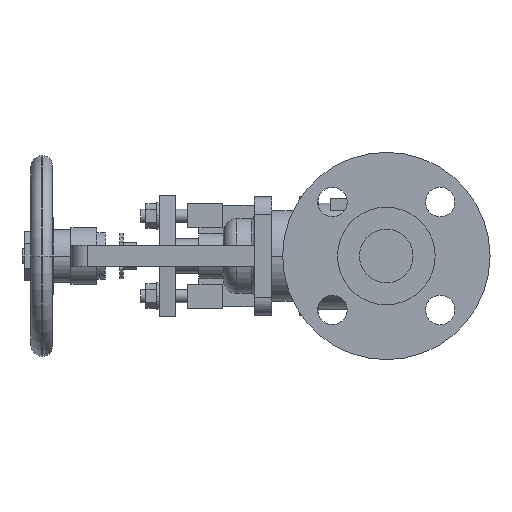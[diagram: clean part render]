
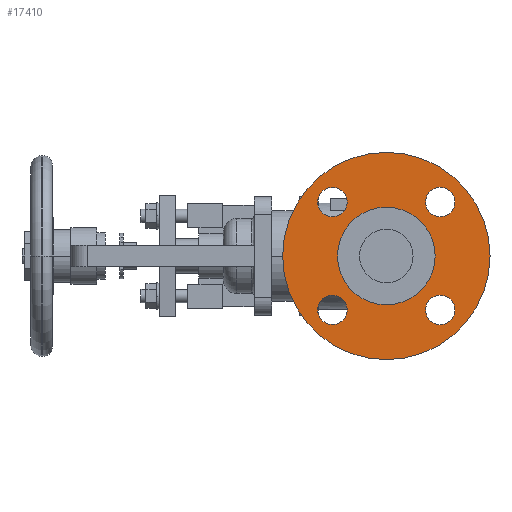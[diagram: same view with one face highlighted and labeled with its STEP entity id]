
A CAD part, left-side view. The second image highlights one B-rep face of the part: STEP entity #17410.
In plain terms, the highlighted planar face has unit normal (-1, 0, 0).
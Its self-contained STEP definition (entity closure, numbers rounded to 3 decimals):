
#4500=CARTESIAN_POINT('',(1.6,0.,-77.5));
#4510=VERTEX_POINT('',#4500);
#4540=CARTESIAN_POINT('',(1.6,0.,0.));
#4550=DIRECTION('',(1.,0.,0.));
#4560=DIRECTION('',(0.,0.,-1.));
#4570=AXIS2_PLACEMENT_3D('',#4540,#4550,#4560);
#4580=CIRCLE('',#4570,77.5);
#4590=CARTESIAN_POINT('',(1.6,0.,77.5));
#4600=VERTEX_POINT('',#4590);
#4610=EDGE_CURVE('',#4600,#4510,#4580,.T.);
#4990=CARTESIAN_POINT('',(1.6,40.305,
-29.305));
#5000=VERTEX_POINT('',#4990);
#5030=CARTESIAN_POINT('',(1.6,40.305,
-40.305));
#5040=DIRECTION('',(-1.,0.,0.));
#5050=DIRECTION('',(0.,0.,-1.));
#5060=AXIS2_PLACEMENT_3D('',#5030,#5040,#5050);
#5070=CIRCLE('',#5060,11.);
#5080=CARTESIAN_POINT('',(1.6,40.305,
-51.305));
#5090=VERTEX_POINT('',#5080);
#5100=EDGE_CURVE('',#5090,#5000,#5070,.T.);
#5480=CARTESIAN_POINT('',(1.6,-40.305,
-51.305));
#5490=VERTEX_POINT('',#5480);
#5650=CARTESIAN_POINT('',(1.6,-40.305,
-29.305));
#5660=VERTEX_POINT('',#5650);
#5690=CARTESIAN_POINT('',(1.6,-40.305,
-40.305));
#5700=DIRECTION('',(-1.,0.,0.));
#5710=DIRECTION('',(0.,0.,-1.));
#5720=AXIS2_PLACEMENT_3D('',#5690,#5700,#5710);
#5730=CIRCLE('',#5720,11.);
#5740=EDGE_CURVE('',#5490,#5660,#5730,.T.);
#5970=CARTESIAN_POINT('',(1.6,40.305,
29.305));
#5980=VERTEX_POINT('',#5970);
#6010=CARTESIAN_POINT('',(1.6,40.305,
40.305));
#6020=DIRECTION('',(-1.,0.,0.));
#6030=DIRECTION('',(0.,0.,-1.));
#6040=AXIS2_PLACEMENT_3D('',#6010,#6020,#6030);
#6050=CIRCLE('',#6040,11.);
#6060=CARTESIAN_POINT('',(1.6,40.305,
51.305));
#6070=VERTEX_POINT('',#6060);
#6080=EDGE_CURVE('',#6070,#5980,#6050,.T.);
#6460=CARTESIAN_POINT('',(1.6,-40.305,
29.305));
#6470=VERTEX_POINT('',#6460);
#6500=CARTESIAN_POINT('',(1.6,-40.305,
40.305));
#6510=DIRECTION('',(-1.,0.,0.));
#6520=DIRECTION('',(0.,0.,-1.));
#6530=AXIS2_PLACEMENT_3D('',#6500,#6510,#6520);
#6540=CIRCLE('',#6530,11.);
#6550=CARTESIAN_POINT('',(1.6,-40.305,
51.305));
#6560=VERTEX_POINT('',#6550);
#6570=EDGE_CURVE('',#6560,#6470,#6540,.T.);
#6950=CARTESIAN_POINT('',(1.6,36.5,0.));
#6960=VERTEX_POINT('',#6950);
#6990=CARTESIAN_POINT('',(1.6,0.,0.));
#7000=DIRECTION('',(-1.,0.,0.));
#7010=DIRECTION('',(0.,1.,0.));
#7020=AXIS2_PLACEMENT_3D('',#6990,#7000,#7010);
#7030=CIRCLE('',#7020,36.5);
#7040=CARTESIAN_POINT('',(1.6,-36.5,0.));
#7050=VERTEX_POINT('',#7040);
#7060=EDGE_CURVE('',#7050,#6960,#7030,.T.);
#17060=CARTESIAN_POINT('',(1.6,57.,0.));
#17070=DIRECTION('',(1.,0.,0.));
#17080=DIRECTION('',(0.,-1.,0.));
#17090=AXIS2_PLACEMENT_3D('',#17060,#17070,#17080);
#17100=PLANE('',#17090);
#17110=EDGE_CURVE('',#6960,#7050,#7030,.T.);
#17120=ORIENTED_EDGE('',*,*,#17110,.F.);
#17130=ORIENTED_EDGE('',*,*,#7060,.F.);
#17140=EDGE_LOOP('',(#17130,#17120));
#17150=FACE_BOUND('',#17140,.T.);
#17160=EDGE_CURVE('',#4510,#4600,#4580,.T.);
#17170=ORIENTED_EDGE('',*,*,#17160,.F.);
#17180=ORIENTED_EDGE('',*,*,#4610,.F.);
#17190=EDGE_LOOP('',(#17180,#17170));
#17200=FACE_OUTER_BOUND('',#17190,.T.);
#17210=ORIENTED_EDGE('',*,*,#5100,.F.);
#17220=EDGE_CURVE('',#5000,#5090,#5070,.T.);
#17230=ORIENTED_EDGE('',*,*,#17220,.F.);
#17240=EDGE_LOOP('',(#17230,#17210));
#17250=FACE_BOUND('',#17240,.T.);
#17260=EDGE_CURVE('',#5660,#5490,#5730,.T.);
#17270=ORIENTED_EDGE('',*,*,#17260,.F.);
#17280=ORIENTED_EDGE('',*,*,#5740,.F.);
#17290=EDGE_LOOP('',(#17280,#17270));
#17300=FACE_BOUND('',#17290,.T.);
#17310=EDGE_CURVE('',#5980,#6070,#6050,.T.);
#17320=ORIENTED_EDGE('',*,*,#17310,.F.);
#17330=ORIENTED_EDGE('',*,*,#6080,.F.);
#17340=EDGE_LOOP('',(#17330,#17320));
#17350=FACE_BOUND('',#17340,.T.);
#17360=ORIENTED_EDGE('',*,*,#6570,.F.);
#17370=EDGE_CURVE('',#6470,#6560,#6540,.T.);
#17380=ORIENTED_EDGE('',*,*,#17370,.F.);
#17390=EDGE_LOOP('',(#17380,#17360));
#17400=FACE_BOUND('',#17390,.T.);
#17410=ADVANCED_FACE('',(#17150,#17200,#17250,#17300,#17350,#17400),
#17100,.F.);
